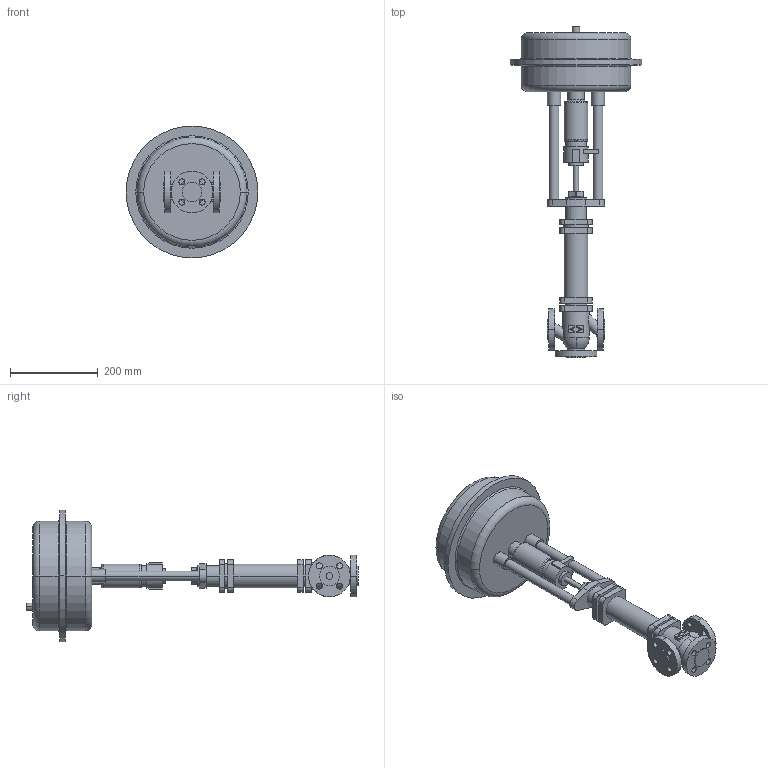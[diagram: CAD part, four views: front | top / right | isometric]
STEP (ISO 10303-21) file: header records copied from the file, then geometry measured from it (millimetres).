
FILE_DESCRIPTION(('OneSpaceDesigner STEP Export'),'2;1');
FILE_NAME('c000000727.stp','2006-09-21T 8:35:28',(''),(''),'OneSpace Designer STEP processor for AP214 (Solid Model)','OneSpace Designer 13.20A 18-Aug-2005 (C) CoCreate Software GmbH','');
FILE_SCHEMA(('AUTOMOTIVE_DESIGN { 1 0 10303 214 1 1 1 1 }'));
Length unit declared in the file: millimetre
Products named in the file (2): 1; 2
Bounding box: 300 x 755.6 x 300 mm (x, y, z)
Volume: 8700813.8 mm3; surface area: 470705.5 mm2
Topology: 2 solids, 2 shells, 242 faces, 598 edges, 395 vertices
Faces by surface type: cylinder 118, plane 102, torus 18, cone 4
Entity records: 6636 total; most frequent: CARTESIAN_POINT 1231, ORIENTED_EDGE 1196, DIRECTION 1012, EDGE_CURVE 598, VERTEX_POINT 395, AXIS2_PLACEMENT_3D 361, EDGE_LOOP 301, VECTOR 290
